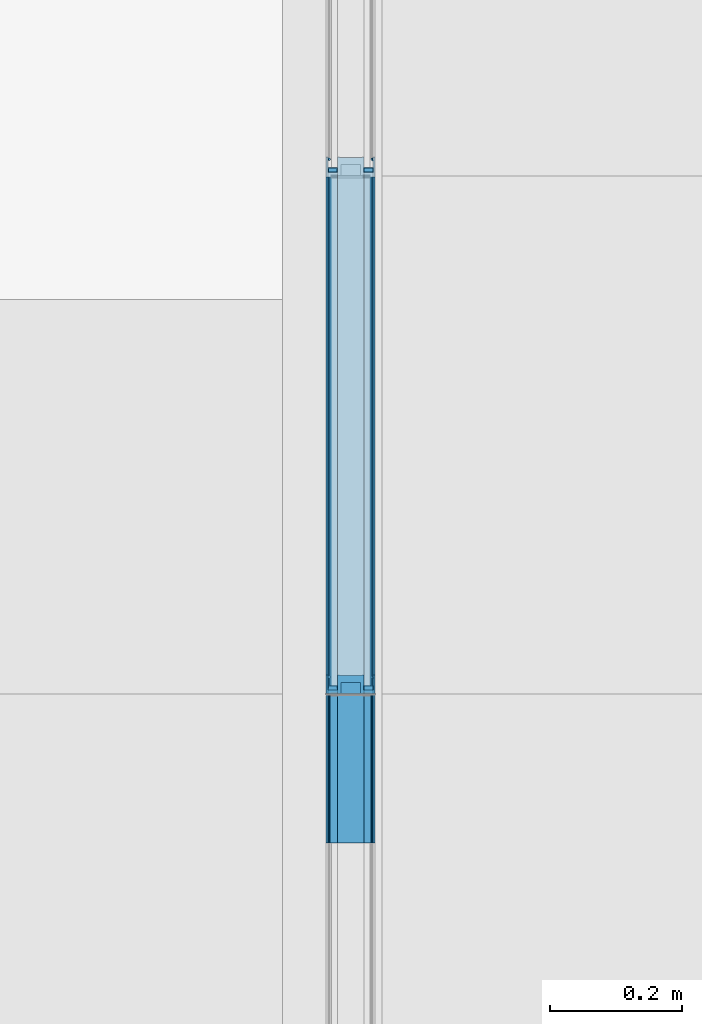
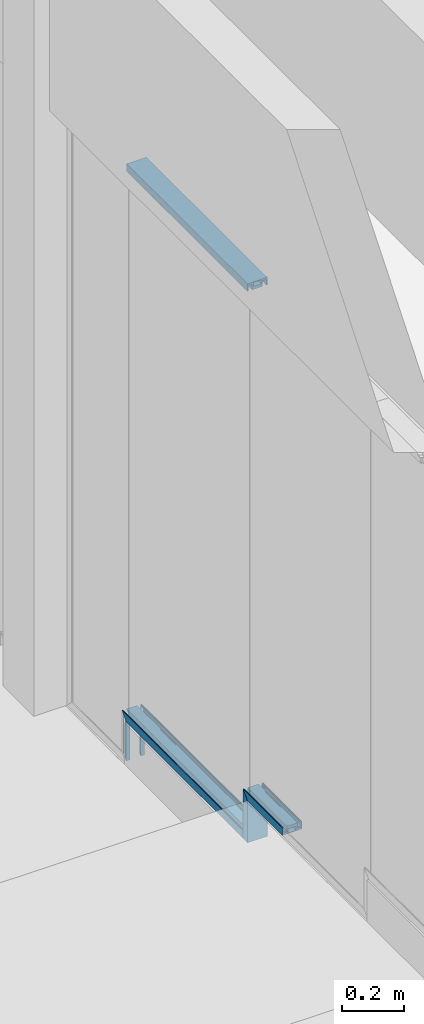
# One storey, part 42 of 65: 8 building element parts, 6 elements without a shape of their own.
"""IFC2X3 building model written with IfcOpenShell, lengths in millimetres."""

import ifcopenshell
import ifcopenshell.guid

model = None  # the IFC model being written
_history = None  # IfcOwnerHistory: only IFC2X3 demands one
_inside = {}  # id of a spatial element -> (the spatial element, [elements in it])
_under = {}  # id of a project, library or spatial element -> (it, [spatial elements below it])
_declared = {}  # id of a project -> (the project, [libraries it declares])
_typed = {}  # id of a type object -> (the type object, [elements of that type])
_made_of = {}  # id of a material, layer set ... -> (it, [elements and type objects made of it])


def new_model(schema):
    """Start an empty IFC model of exactly this schema.

    Asked for "IFC4X3", IfcOpenShell would pick the latest addendum, in which some entities
    have other attributes; the version numbers below select the first issue.
    IFC2X3 requires an IfcOwnerHistory on every rooted entity: one is made here for all.
    """
    global model, _history
    if schema == "IFC4X3":
        model = ifcopenshell.file(schema_version=(4, 3, 0, 0))
    else:
        model = ifcopenshell.file(schema=schema)
    _inside.clear()
    _under.clear()
    _declared.clear()
    _typed.clear()
    _made_of.clear()
    _history = None
    if model.schema == "IFC2X3":
        org = make("IfcOrganization", Name="unknown")
        user = make(
            "IfcPersonAndOrganization",
            ThePerson=make("IfcPerson", FamilyName="unknown"),
            TheOrganization=org,
        )
        app = make(
            "IfcApplication",
            ApplicationDeveloper=org,
            Version="unknown",
            ApplicationFullName="unknown",
            ApplicationIdentifier="unknown",
        )
        _history = make(
            "IfcOwnerHistory",
            OwningUser=user,
            OwningApplication=app,
            ChangeAction="ADDED",
            CreationDate=0,
        )
    return model


def make(cls, **values):
    """One entity of the class cls with the attributes given. An attribute that is None is left unset."""
    return model.create_entity(
        cls, **{name: value for name, value in values.items() if value is not None}
    )


def entity(cls, *values):
    """Any entity or typed value of the class cls, its attributes in the order of the schema. None: left unset."""
    e = model.create_entity(cls)
    for i, value in enumerate(values):
        if value is not None:
            e[i] = value
    return e


def rooted(cls, **values):
    """An entity with a GlobalId (a new one), such as an element, a storey or a relation."""
    return make(cls, GlobalId=ifcopenshell.guid.new(), OwnerHistory=_history, **values)


def si_unit(unit_type, name, prefix=None):
    """IfcSIUnit, for example si_unit("LENGTHUNIT", "METRE", prefix="MILLI")."""
    return make("IfcSIUnit", UnitType=unit_type, Prefix=prefix, Name=name)


def converted_unit(unit_type, name, factor, base, dimensions=None, offset=None):
    """IfcConversionBasedUnit, such as the inch: factor (a typed value) times the base unit."""
    return make(
        "IfcConversionBasedUnit"
        if offset is None
        else "IfcConversionBasedUnitWithOffset",
        ConversionOffset=offset,
        Dimensions=None
        if dimensions is None
        else entity("IfcDimensionalExponents", *dimensions),
        UnitType=unit_type,
        Name=name,
        ConversionFactor=make(
            "IfcMeasureWithUnit", ValueComponent=factor, UnitComponent=base
        ),
    )


def derived_unit(unit_type, elements):
    """IfcDerivedUnit: a product of units, each with its exponent."""
    return make(
        "IfcDerivedUnit",
        Elements=[
            make("IfcDerivedUnitElement", Unit=unit, Exponent=power)
            for unit, power in elements
        ],
        UnitType=unit_type,
    )


def money_unit(currency):
    """IfcMonetaryUnit."""
    return make("IfcMonetaryUnit", Currency=currency)


def assignment(units):
    """IfcUnitAssignment: the units of a project."""
    return None if units is None else make("IfcUnitAssignment", Units=units)


def point(xyz):
    """IfcCartesianPoint."""
    return None if xyz is None else make("IfcCartesianPoint", Coordinates=xyz)


def direction(xyz):
    """IfcDirection."""
    return None if xyz is None else make("IfcDirection", DirectionRatios=xyz)


def frame(location, z_axis=None, x_axis=None):
    """IfcAxis2Placement3D, a coordinate frame: its origin and axes. An axis left out is left unset."""
    return make(
        "IfcAxis2Placement3D",
        Location=point(location),
        Axis=direction(z_axis),
        RefDirection=direction(x_axis),
    )


def origin_with_axes():
    """The frame at (0, 0, 0) with the z axis (0, 0, 1) and the x axis (1, 0, 0) written out."""
    return frame((0.0, 0.0, 0.0), z_axis=(0.0, 0.0, 1.0), x_axis=(1.0, 0.0, 0.0))


def place(relative_to, where):
    """IfcLocalPlacement: puts the frame where relative to a parent placement (None: the world)."""
    return make(
        "IfcLocalPlacement", PlacementRelTo=relative_to, RelativePlacement=where
    )


def context(
    kind, dimensions, precision=None, world=None, true_north=None, identifier=None
):
    """IfcGeometricRepresentationContext, for example the 3D "Model" context."""
    return make(
        "IfcGeometricRepresentationContext",
        ContextIdentifier=identifier,
        ContextType=kind,
        CoordinateSpaceDimension=dimensions,
        Precision=precision,
        WorldCoordinateSystem=world,
        TrueNorth=true_north,
    )


def subcontext(parent, identifier, kind, view, scale=None):
    """IfcGeometricRepresentationSubContext, for example "Body" below "Model"."""
    return make(
        "IfcGeometricRepresentationSubContext",
        ContextIdentifier=identifier,
        ContextType=kind,
        ParentContext=parent,
        TargetScale=scale,
        TargetView=view,
    )


def project(units=None, contexts=None):
    """IfcProject with its units and contexts."""
    return rooted(
        "IfcProject",
        Name="project",
        RepresentationContexts=contexts,
        UnitsInContext=assignment(units),
    )


def spatial(cls, under=None, at=None, **own):
    """A site, building, storey or space (cls), placed at a placement, below another one or the project."""
    s = rooted(cls, ObjectPlacement=at, **own)
    if under is not None:
        _under.setdefault(under.id(), (under, []))[1].append(s)
    return s


def faces_of(points, faces, orient=None, outer=None):
    """IfcFace entities. A face is a list of loops; a loop is a list of indices into points, from 0.

    orient and outer hold one flag for each loop. By default every Orientation is true, the
    first loop of a face is its IfcFaceOuterBound and the others are IfcFaceBound.
    """
    made = []
    for i, loops in enumerate(faces):
        bounds = []
        for j, loop in enumerate(loops):
            is_outer = j == 0 if outer is None else outer[i][j]
            bounds.append(
                make(
                    "IfcFaceOuterBound" if is_outer else "IfcFaceBound",
                    Bound=make("IfcPolyLoop", Polygon=[points[k] for k in loop]),
                    Orientation=True if orient is None else orient[i][j],
                )
            )
        made.append(make("IfcFace", Bounds=bounds))
    return made


def faceted_brep(points, faces, orient=None, outer=None, voids=None):
    """IfcFacetedBrep: a solid bounded by flat faces; with voids (closed shells), ...WithVoids."""
    shared = [point(p) for p in points]
    hull = make("IfcClosedShell", CfsFaces=faces_of(shared, faces, orient, outer))
    if voids is None:
        return make("IfcFacetedBrep", Outer=hull)
    return make(
        "IfcFacetedBrepWithVoids",
        Outer=hull,
        Voids=[
            make(cls, CfsFaces=faces_of(shared, fs, o, b)) for cls, fs, o, b in voids
        ],
    )


def shape(context_of_items, identifier, shape_type, items):
    """IfcShapeRepresentation: the items that make up one representation, for example the "Body"."""
    return make(
        "IfcShapeRepresentation",
        ContextOfItems=context_of_items,
        RepresentationIdentifier=identifier,
        RepresentationType=shape_type,
        Items=items,
    )


def material(Name=None, Category=None):
    """IfcMaterial."""
    return make("IfcMaterial", Name=Name, Category=Category)


def made_of(thing, what):
    """Note that an element or type object is made of a material, layer set ...; save() writes the relation."""
    if what is not None:
        _made_of.setdefault(what.id(), (what, []))[1].append(thing)
    return thing


def type_object(cls, material=None, **own):
    """A type object (cls), such as IfcWallType, which elements share."""
    return made_of(rooted(cls, **own), material)


def element(
    cls,
    number,
    at=None,
    inside=None,
    cuts=None,
    type_object=None,
    material=None,
    context=None,
    identifier="Body",
    shape_type=None,
    held_by="IfcProductDefinitionShape",
    body=None,
    shapes=None,
    **own,
):
    """One element of the class cls, such as IfcWall. Its Tag is "e" and its number.

    at: its placement. inside: the storey or other place that contains it. cuts: it is an
    opening in that element (IfcRelVoidsElement). A single representation is given by context,
    identifier, shape_type and body (its items); several are given by shapes. held_by: the class
    of the entity that holds the representations. save() writes the other relations.
    """
    e = rooted(cls, Tag="e%d" % number, ObjectPlacement=at, **own)
    if body is not None:
        shapes = [shape(context, identifier, shape_type, body)]
    if shapes is not None:
        e.Representation = make(held_by, Representations=shapes)
    if inside is not None:
        _inside.setdefault(inside.id(), (inside, []))[1].append(e)
    if cuts is not None:
        rooted(
            "IfcRelVoidsElement", RelatingBuildingElement=cuts, RelatedOpeningElement=e
        )
    if type_object is not None:
        _typed.setdefault(type_object.id(), (type_object, []))[1].append(e)
    return made_of(e, material)


def aggregate(whole, parts):
    """IfcRelAggregates: a whole, such as a stair, and the parts it consists of."""
    return rooted("IfcRelAggregates", RelatingObject=whole, RelatedObjects=parts)


def save(model, path):
    """Write the relations noted so far, then the file.

    IfcRelAggregates (storeys below a building ...), IfcRelContainedInSpatialStructure (elements
    in a storey), IfcRelDefinesByType, IfcRelAssociatesMaterial and IfcRelDeclares: one each for
    every whole, place, type object, material and project.
    """
    for whole, parts in _under.values():
        aggregate(whole, parts)
    for where, things in _inside.values():
        rooted(
            "IfcRelContainedInSpatialStructure",
            RelatedElements=things,
            RelatingStructure=where,
        )
    for kind, things in _typed.values():
        rooted("IfcRelDefinesByType", RelatedObjects=things, RelatingType=kind)
    for what, things in _made_of.values():
        rooted("IfcRelAssociatesMaterial", RelatedObjects=things, RelatingMaterial=what)
    for by, libraries in _declared.values():
        rooted("IfcRelDeclares", RelatingContext=by, RelatedDefinitions=libraries)
    model.write(path)


model = new_model("IFC2X3")

# Units and contexts
model_context = context("Model", 3, precision=0.01, world=origin_with_axes(), true_north=direction((0.0, 1.0)))
body_context = subcontext(model_context, "Body", "Model", "MODEL_VIEW")
ifc_project = project(units=[si_unit("LENGTHUNIT", "METRE", prefix="MILLI"), si_unit("AREAUNIT", "SQUARE_METRE"), si_unit("VOLUMEUNIT", "CUBIC_METRE"), converted_unit("PLANEANGLEUNIT", "DEGREE", entity("IfcPlaneAngleMeasure", 0.0174532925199), si_unit("PLANEANGLEUNIT", "RADIAN"), dimensions=[0, 0, 0, 0, 0, 0, 0]), si_unit("SOLIDANGLEUNIT", "STERADIAN"), money_unit("EUR"), converted_unit("TIMEUNIT", "Year", entity("IfcTimeMeasure", 31556926.0), si_unit("TIMEUNIT", "SECOND"), dimensions=[0, 0, 1, 0, 0, 0, 0]), si_unit("MASSUNIT", "GRAM", prefix="KILO"), si_unit("THERMODYNAMICTEMPERATUREUNIT", "DEGREE_CELSIUS"), si_unit("LUMINOUSINTENSITYUNIT", "LUMEN"), si_unit("ENERGYUNIT", "JOULE", prefix="MEGA"), derived_unit("THERMALCONDUCTANCEUNIT", [(si_unit("POWERUNIT", "WATT"), 1), (si_unit("LENGTHUNIT", "METRE"), -1), (si_unit("THERMODYNAMICTEMPERATUREUNIT", "KELVIN"), -1)]), derived_unit("SPECIFICHEATCAPACITYUNIT", [(si_unit("ENERGYUNIT", "JOULE"), 1), (si_unit("MASSUNIT", "GRAM", prefix="KILO"), -1), (si_unit("THERMODYNAMICTEMPERATUREUNIT", "KELVIN"), -1)]), derived_unit("MASSDENSITYUNIT", [(si_unit("MASSUNIT", "GRAM", prefix="KILO"), 1), (si_unit("VOLUMEUNIT", "CUBIC_METRE"), -1)])], contexts=[model_context])

# Site, building, storey
site_placement = place(None, origin_with_axes())
site = spatial("IfcSite", under=ifc_project, at=site_placement, Name="Puškini 31, Narva", CompositionType="ELEMENT")
building_placement = place(site_placement, origin_with_axes())
building = spatial("IfcBuilding", under=site, at=building_placement, Name="Narva Riigigümnaasium", CompositionType="ELEMENT")
storey_placement = place(building_placement, frame((0.0, 0.0, -1320.0), z_axis=(0.0, 0.0, 1.0), x_axis=(1.0, 0.0, 0.0)))
storey = spatial("IfcBuildingStorey", under=building, at=storey_placement, Name="1.korrus -1.32", CompositionType="ELEMENT", Elevation=-1320.0)

# Curtain wall, members, building element parts
curtain_wall_type = type_object("IfcCurtainWallType", Name="Curtain Wall Type", PredefinedType="NOTDEFINED")
curtain_wall_placement = place(storey_placement, frame((30362.9999948, 159591.499992, 330.0), z_axis=(0.0, 0.0, 1.0), x_axis=(1.0, 0.0, 0.0)))
curtain_wall = element("IfcCurtainWall", 1, at=curtain_wall_placement, inside=storey, type_object=curtain_wall_type, Name="G-SKLF-03")
member_type = type_object("IfcMemberType", Name="30 x 37", PredefinedType="MULLION")
member_1_placement = place(curtain_wall_placement, frame((0.0, 3523.5, 2369.99992686), z_axis=(0.0, -1.0, -2.12102340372e-08), x_axis=(0.0, 2.12102340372e-08, -1.0)))
member_1 = element("IfcMember", 2, at=member_1_placement, type_object=member_type, Name="G-SKLF-36-raam", ObjectType="MULLION")
ifc_material_1 = material(Name="Teras RAL7012")
building_element_part_1_placement = place(member_1_placement, origin_with_axes())
building_element_part_1 = element("IfcBuildingElementPart", 3, at=building_element_part_1_placement, material=ifc_material_1, Name="Teras RAL7012", context=body_context, shape_type="Brep", body=[
    faceted_brep([(0.0, -17.0000000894, -4.74490379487e-07), (29.5999996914, -17.0000000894, -4.74490379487e-07), (29.5999996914, -17.0000000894, 781.799979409), (0.0, -17.0000000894, 781.799979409), (0.0, 17.0000000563, -4.74490379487e-07), (29.5999996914, 17.0000000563, -4.74490379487e-07), (1.9999999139, 15.0000001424, -4.74490379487e-07), (1.9999999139, -15.0000001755, -4.74490379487e-07), (18.7999996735, -15.0000001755, -4.74490379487e-07), (18.7999996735, 15.0000001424, -4.74490379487e-07), (29.5999996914, 17.0000000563, 781.799979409), (0.0, 17.0000000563, 781.799979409), (1.9999999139, 15.0000001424, 781.799979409), (18.7999996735, 15.0000001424, 781.799979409), (18.7999996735, -15.0000001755, 781.799979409), (1.9999999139, -15.0000001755, 781.799979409)], [[[0, 1, 2, 3]], [[0, 4, 5, 1], [6, 7, 8, 9]], [[1, 5, 10, 2]], [[3, 2, 10, 11], [12, 13, 14, 15]], [[4, 0, 3, 11]], [[5, 4, 11, 10]], [[7, 6, 12, 15]], [[8, 7, 15, 14]], [[9, 8, 14, 13]], [[6, 9, 13, 12]]]),
    faceted_brep([(0.0, 17.0, -4.74490379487e-07), (29.5999996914, 17.0000000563, -4.74490379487e-07), (29.5999996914, 17.0000000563, 781.799979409), (0.0, 17.0, 781.799979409), (0.0, 37.0, -4.74490379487e-07), (30.0000193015, 37.0, -4.74490379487e-07), (30.0000193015, 34.0161444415, -4.74490379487e-07), (28.5126239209, 34.0161444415, -4.74490379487e-07), (24.987414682, 34.0161444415, -4.74490379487e-07), (13.8499999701, 34.0161444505, -4.74490379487e-07), (7.49999999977, 34.0161444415, -4.74490379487e-07), (7.49999999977, 20.0, -4.74490379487e-07), (13.8499999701, 20.000000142, -4.74490379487e-07), (30.0000193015, 20.0, -4.74490379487e-07), (30.0000193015, 17.0, -4.74490379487e-07), (30.0000193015, 17.0, 781.799979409), (30.0000193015, 20.0, 781.799979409), (13.8499999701, 20.000000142, 781.799979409), (7.49999999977, 20.0, 781.799979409), (7.49999999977, 34.0161444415, 781.799979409), (13.8499999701, 34.0161444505, 781.799979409), (24.987414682, 34.0161444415, 781.799979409), (28.5126239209, 34.0161444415, 781.799979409), (30.0000193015, 34.0161444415, 781.799979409), (30.0000193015, 37.0, 781.799979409), (0.0, 37.0, 781.799979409)], [[[0, 1, 2, 3]], [[0, 4, 5, 6, 7, 8, 9, 10, 11, 12, 13, 14, 1]], [[1, 14, 15, 2]], [[3, 2, 15, 16, 17, 18, 19, 20, 21, 22, 23, 24, 25]], [[4, 0, 3, 25]], [[5, 4, 25, 24]], [[6, 5, 24, 23]], [[7, 6, 23, 22]], [[8, 7, 22, 21]], [[9, 8, 21, 20]], [[10, 9, 20, 19]], [[11, 10, 19, 18]], [[12, 11, 18, 17]], [[13, 12, 17, 16]], [[14, 13, 16, 15]]]),
    faceted_brep([(0.0, -17.0, -4.74490379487e-07), (0.0, -37.0, -4.74490379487e-07), (0.0, -37.0, 781.799979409), (0.0, -17.0, 781.799979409), (29.5999996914, -17.0000000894, -4.74490379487e-07), (30.0000193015, -17.0, -4.74490379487e-07), (30.0000193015, -20.0, -4.74490379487e-07), (13.8499999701, -19.9999997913, -4.74490379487e-07), (7.49999999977, -20.0, -4.74490379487e-07), (7.49999999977, -34.0161444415, -4.74490379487e-07), (13.8499999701, -34.0161445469, -4.74490379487e-07), (24.987414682, -34.0161444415, -4.74490379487e-07), (28.5126239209, -34.0161444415, -4.74490379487e-07), (30.0000193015, -34.0161444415, -4.74490379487e-07), (30.0000193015, -37.0, -4.74490379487e-07), (30.0000193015, -37.0, 781.799979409), (30.0000193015, -34.0161444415, 781.799979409), (28.5126239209, -34.0161444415, 781.799979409), (24.987414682, -34.0161444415, 781.799979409), (13.8499999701, -34.0161445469, 781.799979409), (7.49999999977, -34.0161444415, 781.799979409), (7.49999999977, -20.0, 781.799979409), (13.8499999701, -19.9999997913, 781.799979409), (30.0000193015, -20.0, 781.799979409), (30.0000193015, -17.0, 781.799979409), (29.5999996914, -17.0000000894, 781.799979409)], [[[0, 1, 2, 3]], [[0, 4, 5, 6, 7, 8, 9, 10, 11, 12, 13, 14, 1]], [[1, 14, 15, 2]], [[3, 2, 15, 16, 17, 18, 19, 20, 21, 22, 23, 24, 25]], [[4, 0, 3, 25]], [[5, 4, 25, 24]], [[6, 5, 24, 23]], [[7, 6, 23, 22]], [[8, 7, 22, 21]], [[9, 8, 21, 20]], [[10, 9, 20, 19]], [[11, 10, 19, 18]], [[12, 11, 18, 17]], [[13, 12, 17, 16]], [[14, 13, 16, 15]]]),
])
aggregate(member_1, [building_element_part_1])
member_2_placement = place(curtain_wall_placement, frame((0.0, 2516.70004228, 329.999997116), z_axis=(0.0, 1.0, -7.85589987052e-08), x_axis=(0.0, 7.85589987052e-08, 1.0)))
member_2 = element("IfcMember", 4, at=member_2_placement, type_object=member_type, Name="G-SKLF-32-raam", ObjectType="MULLION")
ifc_material_2 = material(Name="Klaasvill")
building_element_part_2_placement = place(member_2_placement, origin_with_axes())
building_element_part_2 = element("IfcBuildingElementPart", 5, at=building_element_part_2_placement, material=ifc_material_2, Name="Klaasvill", context=body_context, shape_type="Brep", body=[
    faceted_brep([(7.49999990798, 20.000000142, -1.17838574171e-06), (13.8499999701, 20.000000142, -1.17838574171e-06), (13.8499999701, 20.000000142, 237.649956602), (7.49999990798, 20.000000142, 231.299957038), (7.49999990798, 34.0161444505, -1.17838574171e-06), (13.8499999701, 34.0161444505, -1.17838574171e-06), (13.8499999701, 34.0161444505, 237.649956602), (7.49999990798, 34.0161444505, 231.299957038)], [[[0, 1, 2, 3]], [[0, 4, 5, 1]], [[1, 5, 6, 2]], [[3, 2, 6, 7]], [[4, 0, 3, 7]], [[5, 4, 7, 6]]]),
    faceted_brep([(24.987414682, 34.0161444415, -1.17838574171e-06), (25.004489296, 32.0307503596, -1.17838574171e-06), (25.004489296, 32.0307503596, 248.804445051), (24.987414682, 34.0161444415, 248.787370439), (28.5126239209, 34.0161444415, -1.17838574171e-06), (28.7655837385, 33.0385325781, -1.17838574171e-06), (28.4955493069, 32.0307503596, -1.17838574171e-06), (27.75780152, 31.2930025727, -1.17838574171e-06), (26.7500193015, 31.0229681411, -1.17838574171e-06), (25.742237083, 31.2930025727, -1.17838574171e-06), (25.742237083, 31.2930025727, 249.54219278), (26.7500193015, 31.0229681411, 250.54997492), (27.75780152, 31.2930025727, 251.557757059), (28.4955493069, 32.0307503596, 252.295504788), (28.7655837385, 33.0385325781, 252.565539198), (28.5126239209, 34.0161444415, 252.312579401)], [[[0, 1, 2, 3]], [[0, 4, 5, 6, 7, 8, 9, 1]], [[1, 9, 10, 2]], [[3, 2, 10, 11, 12, 13, 14, 15]], [[4, 0, 3, 15]], [[5, 4, 15, 14]], [[6, 5, 14, 13]], [[7, 6, 13, 12]], [[8, 7, 12, 11]], [[9, 8, 11, 10]]]),
    faceted_brep([(7.49999990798, -19.9999997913, -1.17838574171e-06), (7.49999990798, -34.0161445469, -1.17838574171e-06), (7.49999990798, -34.0161445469, 231.299957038), (7.49999990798, -19.9999997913, 231.299957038), (13.8499999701, -19.9999997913, -1.17838574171e-06), (13.8499999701, -34.0161445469, -1.17838574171e-06), (13.8499999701, -34.0161445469, 237.649956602), (13.8499999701, -19.9999997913, 237.649956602)], [[[0, 1, 2, 3]], [[0, 4, 5, 1]], [[1, 5, 6, 2]], [[3, 2, 6, 7]], [[4, 0, 3, 7]], [[5, 4, 7, 6]]]),
    faceted_brep([(25.004489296, -32.0307503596, -1.17838574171e-06), (24.987414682, -34.0161444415, -1.17838574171e-06), (24.987414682, -34.0161444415, 248.787370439), (25.004489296, -32.0307503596, 248.804445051), (25.742237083, -31.2930025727, -1.17838574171e-06), (26.7500193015, -31.0229681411, -1.17838574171e-06), (27.75780152, -31.2930025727, -1.17838574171e-06), (28.4955493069, -32.0307503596, -1.17838574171e-06), (28.7655837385, -33.0385325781, -1.17838574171e-06), (28.5126239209, -34.0161444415, -1.17838574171e-06), (28.5126239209, -34.0161444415, 252.312579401), (28.7655837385, -33.0385325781, 252.565539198), (28.4955493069, -32.0307503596, 252.295504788), (27.75780152, -31.2930025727, 251.557757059), (26.7500193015, -31.0229681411, 250.54997492), (25.742237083, -31.2930025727, 249.54219278)], [[[0, 1, 2, 3]], [[0, 4, 5, 6, 7, 8, 9, 1]], [[1, 9, 10, 2]], [[3, 2, 10, 11, 12, 13, 14, 15]], [[4, 0, 3, 15]], [[5, 4, 15, 14]], [[6, 5, 14, 13]], [[7, 6, 13, 12]], [[8, 7, 12, 11]], [[9, 8, 11, 10]]]),
])
building_element_part_3_placement = place(member_2_placement, origin_with_axes())
building_element_part_3 = element("IfcBuildingElementPart", 6, at=building_element_part_3_placement, material=ifc_material_1, Name="Teras RAL7012", context=body_context, shape_type="Brep", body=[
    faceted_brep([(0.0, -17.0000000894, -1.17838574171e-06), (29.5999996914, -17.0000000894, -1.17838574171e-06), (29.5999996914, -17.0000000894, 253.399955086), (0.0, -17.0000000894, 223.79995772), (0.0, 17.0000000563, -1.17838574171e-06), (29.5999996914, 17.0000000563, -1.17838574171e-06), (1.9999999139, 15.0000001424, -1.17838574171e-06), (1.9999999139, -15.0000001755, -1.17838574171e-06), (18.7999996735, -15.0000001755, -1.17838574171e-06), (18.7999996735, 15.0000001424, -1.17838574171e-06), (29.5999996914, 17.0000000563, 253.399955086), (0.0, 17.0000000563, 223.79995772), (1.9999999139, 15.0000001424, 225.799957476), (18.7999996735, 15.0000001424, 242.599955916), (18.7999996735, -15.0000001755, 242.599955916), (1.9999999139, -15.0000001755, 225.799957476)], [[[0, 1, 2, 3]], [[0, 4, 5, 1], [6, 7, 8, 9]], [[1, 5, 10, 2]], [[3, 2, 10, 11], [12, 13, 14, 15]], [[4, 0, 3, 11]], [[5, 4, 11, 10]], [[7, 6, 12, 15]], [[8, 7, 15, 14]], [[9, 8, 14, 13]], [[6, 9, 13, 12]]]),
    faceted_brep([(0.0, 17.0, -1.17838575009e-06), (0.0, 17.0, 223.79995772), (0.0, 37.0, 223.79995772), (0.0, 37.0, -1.17838575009e-06), (29.5999996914, 17.0000000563, -1.17838575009e-06), (29.5999996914, 17.0000000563, 253.399955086), (30.0000193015, 17.0, 253.799974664), (30.0000193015, 20.0, 253.799974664), (13.8499999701, 20.000000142, 237.649956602), (7.49999999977, 20.0, 231.29995713), (7.49999999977, 34.0161444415, 231.29995713), (13.8499999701, 34.0161444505, 237.649956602), (24.987414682, 34.0161444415, 248.787370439), (28.5126239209, 34.0161444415, 252.312579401), (30.0000193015, 34.0161444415, 253.799974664), (30.0000193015, 37.0, 253.799974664), (30.0000193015, 37.0, -1.17838575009e-06), (7.49999999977, 20.0, -1.17838575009e-06), (13.8499999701, 20.000000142, -1.17838575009e-06), (30.0000193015, 20.0, -1.17838575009e-06), (30.0000193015, 17.0, -1.17838575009e-06), (30.0000193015, 34.0161444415, -1.17838575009e-06), (28.5126239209, 34.0161444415, -1.17838575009e-06), (24.987414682, 34.0161444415, -1.17838575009e-06), (13.8499999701, 34.0161444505, -1.17838575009e-06), (7.49999999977, 34.0161444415, -1.17838575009e-06)], [[[0, 1, 2, 3]], [[1, 0, 4, 5]], [[2, 1, 5, 6, 7, 8, 9, 10, 11, 12, 13, 14, 15]], [[3, 2, 15, 16]], [[17, 18, 19, 20, 4, 0, 3, 16, 21, 22, 23, 24, 25]], [[4, 20, 6, 5]], [[20, 19, 7, 6]], [[19, 18, 8, 7]], [[18, 17, 9, 8]], [[17, 25, 10, 9]], [[10, 25, 24, 11]], [[24, 23, 12, 11]], [[23, 22, 13, 12]], [[22, 21, 14, 13]], [[21, 16, 15, 14]]]),
    faceted_brep([(0.0, -37.0, -1.17838575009e-06), (0.0, -37.0, 223.79995772), (0.0, -17.0, 223.79995772), (0.0, -17.0, -1.17838575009e-06), (30.0000193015, -37.0, -1.17838575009e-06), (30.0000193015, -37.0, 253.799974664), (30.0000193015, -34.0161444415, 253.799974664), (28.5126239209, -34.0161444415, 252.312579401), (24.987414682, -34.0161444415, 248.787370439), (13.8499999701, -34.0161445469, 237.649956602), (7.49999999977, -34.0161444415, 231.29995713), (7.49999999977, -20.0, 231.29995713), (13.8499999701, -19.9999997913, 237.649956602), (30.0000193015, -20.0, 253.799974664), (30.0000193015, -17.0, 253.799974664), (29.5999996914, -17.0000000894, 253.399955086), (29.5999996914, -17.0000000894, -1.17838575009e-06), (7.49999999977, -34.0161444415, -1.17838575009e-06), (13.8499999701, -34.0161445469, -1.17838575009e-06), (24.987414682, -34.0161444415, -1.17838575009e-06), (28.5126239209, -34.0161444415, -1.17838575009e-06), (30.0000193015, -34.0161444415, -1.17838575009e-06), (30.0000193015, -17.0, -1.17838575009e-06), (30.0000193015, -20.0, -1.17838575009e-06), (13.8499999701, -19.9999997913, -1.17838575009e-06), (7.49999999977, -20.0, -1.17838575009e-06)], [[[0, 1, 2, 3]], [[1, 0, 4, 5]], [[2, 1, 5, 6, 7, 8, 9, 10, 11, 12, 13, 14, 15]], [[3, 2, 15, 16]], [[17, 18, 19, 20, 21, 4, 0, 3, 16, 22, 23, 24, 25]], [[4, 21, 6, 5]], [[21, 20, 7, 6]], [[20, 19, 8, 7]], [[18, 9, 8, 19]], [[18, 17, 10, 9]], [[17, 25, 11, 10]], [[11, 25, 24, 12]], [[24, 23, 13, 12]], [[23, 22, 14, 13]], [[16, 15, 14, 22]]]),
])
aggregate(member_2, [building_element_part_2, building_element_part_3])
member_3_placement = place(curtain_wall_placement, frame((0.0, 2741.70002059, 165.000007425), z_axis=(0.0, 1.0, 0.0), x_axis=(0.0, 0.0, 1.0)))
member_3 = element("IfcMember", 7, at=member_3_placement, type_object=member_type, Name="G-SKLF-39-raam", ObjectType="MULLION")
building_element_part_4_placement = place(member_3_placement, origin_with_axes())
building_element_part_4 = element("IfcBuildingElementPart", 8, at=building_element_part_4_placement, material=ifc_material_2, Name="Klaasvill", context=body_context, shape_type="Brep", body=[
    faceted_brep([(7.49999990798, 20.000000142, 0.0), (13.8499999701, 20.000000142, 0.0), (13.8499999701, 20.000000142, 795.649979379), (7.49999990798, 20.000000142, 789.299979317), (7.49999990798, 34.0161444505, 0.0), (13.8499999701, 34.0161444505, 0.0), (13.8499999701, 34.0161444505, 795.649979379), (7.49999990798, 34.0161444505, 789.299979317)], [[[0, 1, 2, 3]], [[0, 4, 5, 1]], [[1, 5, 6, 2]], [[3, 2, 6, 7]], [[4, 0, 3, 7]], [[5, 4, 7, 6]]]),
    faceted_brep([(24.987414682, 34.0161444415, 0.0), (25.004489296, 32.0307503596, 0.0), (25.004489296, 32.0307503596, 806.804468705), (24.987414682, 34.0161444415, 806.787394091), (28.5126239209, 34.0161444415, 0.0), (28.7655837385, 33.0385325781, 0.0), (28.4955493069, 32.0307503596, 0.0), (27.75780152, 31.2930025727, 0.0), (26.7500193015, 31.0229681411, 0.0), (25.742237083, 31.2930025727, 0.0), (25.742237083, 31.2930025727, 807.542216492), (26.7500193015, 31.0229681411, 808.549998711), (27.75780152, 31.2930025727, 809.557780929), (28.4955493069, 32.0307503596, 810.295528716), (28.7655837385, 33.0385325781, 810.565563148), (28.5126239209, 34.0161444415, 810.31260333)], [[[0, 1, 2, 3]], [[0, 4, 5, 6, 7, 8, 9, 1]], [[1, 9, 10, 2]], [[3, 2, 10, 11, 12, 13, 14, 15]], [[4, 0, 3, 15]], [[5, 4, 15, 14]], [[6, 5, 14, 13]], [[7, 6, 13, 12]], [[8, 7, 12, 11]], [[9, 8, 11, 10]]]),
    faceted_brep([(7.49999990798, -19.9999997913, 0.0), (7.49999990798, -34.0161445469, 0.0), (7.49999990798, -34.0161445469, 789.299979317), (7.49999990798, -19.9999997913, 789.299979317), (13.8499999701, -19.9999997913, 0.0), (13.8499999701, -34.0161445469, 0.0), (13.8499999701, -34.0161445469, 795.649979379), (13.8499999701, -19.9999997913, 795.649979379)], [[[0, 1, 2, 3]], [[0, 4, 5, 1]], [[1, 5, 6, 2]], [[3, 2, 6, 7]], [[4, 0, 3, 7]], [[5, 4, 7, 6]]]),
    faceted_brep([(25.004489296, -32.0307503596, 0.0), (24.987414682, -34.0161444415, 0.0), (24.987414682, -34.0161444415, 806.787394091), (25.004489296, -32.0307503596, 806.804468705), (25.742237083, -31.2930025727, 0.0), (26.7500193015, -31.0229681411, 0.0), (27.75780152, -31.2930025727, 0.0), (28.4955493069, -32.0307503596, 0.0), (28.7655837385, -33.0385325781, 0.0), (28.5126239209, -34.0161444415, 0.0), (28.5126239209, -34.0161444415, 810.31260333), (28.7655837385, -33.0385325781, 810.565563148), (28.4955493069, -32.0307503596, 810.295528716), (27.75780152, -31.2930025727, 809.557780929), (26.7500193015, -31.0229681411, 808.549998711), (25.742237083, -31.2930025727, 807.542216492)], [[[0, 1, 2, 3]], [[0, 4, 5, 6, 7, 8, 9, 1]], [[1, 9, 10, 2]], [[3, 2, 10, 11, 12, 13, 14, 15]], [[4, 0, 3, 15]], [[5, 4, 15, 14]], [[6, 5, 14, 13]], [[7, 6, 13, 12]], [[8, 7, 12, 11]], [[9, 8, 11, 10]]]),
])
building_element_part_5_placement = place(member_3_placement, origin_with_axes())
building_element_part_5 = element("IfcBuildingElementPart", 9, at=building_element_part_5_placement, material=ifc_material_1, Name="Teras RAL7012", context=body_context, shape_type="Brep", body=[
    faceted_brep([(0.0, -17.0000000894, 0.0), (29.5999996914, -17.0000000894, 0.0), (29.5999996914, -17.0000000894, 811.399979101), (0.0, -17.0000000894, 781.799979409), (0.0, 17.0000000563, 0.0), (29.5999996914, 17.0000000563, 0.0), (1.9999999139, 15.0000001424, 0.0), (1.9999999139, -15.0000001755, 0.0), (18.7999996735, -15.0000001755, 0.0), (18.7999996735, 15.0000001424, 0.0), (29.5999996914, 17.0000000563, 811.399979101), (0.0, 17.0000000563, 781.799979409), (1.9999999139, 15.0000001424, 783.799979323), (18.7999996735, 15.0000001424, 800.599979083), (18.7999996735, -15.0000001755, 800.599979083), (1.9999999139, -15.0000001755, 783.799979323)], [[[0, 1, 2, 3]], [[0, 4, 5, 1], [6, 7, 8, 9]], [[1, 5, 10, 2]], [[3, 2, 10, 11], [12, 13, 14, 15]], [[4, 0, 3, 11]], [[5, 4, 11, 10]], [[7, 6, 12, 15]], [[8, 7, 15, 14]], [[9, 8, 14, 13]], [[6, 9, 13, 12]]]),
    faceted_brep([(0.0, 17.0, 0.0), (0.0, 17.0, 781.799979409), (0.0, 37.0, 781.799979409), (0.0, 37.0, 0.0), (29.5999996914, 17.0000000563, 0.0), (29.5999996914, 17.0000000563, 811.399979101), (30.0000193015, 17.0, 811.799998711), (30.0000193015, 20.0, 811.799998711), (13.8499999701, 20.000000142, 795.649979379), (7.49999999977, 20.0, 789.299979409), (7.49999999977, 34.0161444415, 789.299979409), (13.8499999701, 34.0161444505, 795.649979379), (24.987414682, 34.0161444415, 806.787394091), (28.5126239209, 34.0161444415, 810.31260333), (30.0000193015, 34.0161444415, 811.799998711), (30.0000193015, 37.0, 811.799998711), (30.0000193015, 37.0, 0.0), (7.49999999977, 20.0, 0.0), (13.8499999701, 20.000000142, 0.0), (30.0000193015, 20.0, 0.0), (30.0000193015, 17.0, 0.0), (30.0000193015, 34.0161444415, 0.0), (28.5126239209, 34.0161444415, 0.0), (24.987414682, 34.0161444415, 0.0), (13.8499999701, 34.0161444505, 0.0), (7.49999999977, 34.0161444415, 0.0)], [[[0, 1, 2, 3]], [[1, 0, 4, 5]], [[2, 1, 5, 6, 7, 8, 9, 10, 11, 12, 13, 14, 15]], [[3, 2, 15, 16]], [[17, 18, 19, 20, 4, 0, 3, 16, 21, 22, 23, 24, 25]], [[4, 20, 6, 5]], [[20, 19, 7, 6]], [[19, 18, 8, 7]], [[18, 17, 9, 8]], [[17, 25, 10, 9]], [[10, 25, 24, 11]], [[24, 23, 12, 11]], [[23, 22, 13, 12]], [[22, 21, 14, 13]], [[21, 16, 15, 14]]]),
    faceted_brep([(0.0, -37.0, 0.0), (0.0, -37.0, 781.799979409), (0.0, -17.0, 781.799979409), (0.0, -17.0, 0.0), (30.0000193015, -37.0, 0.0), (30.0000193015, -37.0, 811.799998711), (30.0000193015, -34.0161444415, 811.799998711), (28.5126239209, -34.0161444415, 810.31260333), (24.987414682, -34.0161444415, 806.787394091), (13.8499999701, -34.0161445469, 795.649979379), (7.49999999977, -34.0161444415, 789.299979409), (7.49999999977, -20.0, 789.299979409), (13.8499999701, -19.9999997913, 795.649979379), (30.0000193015, -20.0, 811.799998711), (30.0000193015, -17.0, 811.799998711), (29.5999996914, -17.0000000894, 811.399979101), (29.5999996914, -17.0000000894, 0.0), (7.49999999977, -34.0161444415, 0.0), (13.8499999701, -34.0161445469, 0.0), (24.987414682, -34.0161444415, 0.0), (28.5126239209, -34.0161444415, 0.0), (30.0000193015, -34.0161444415, 0.0), (30.0000193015, -17.0, 0.0), (30.0000193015, -20.0, 0.0), (13.8499999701, -19.9999997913, 0.0), (7.49999999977, -20.0, 0.0)], [[[0, 1, 2, 3]], [[1, 0, 4, 5]], [[2, 1, 5, 6, 7, 8, 9, 10, 11, 12, 13, 14, 15]], [[3, 2, 15, 16]], [[17, 18, 19, 20, 21, 4, 0, 3, 16, 22, 23, 24, 25]], [[4, 21, 6, 5]], [[21, 20, 7, 6]], [[20, 19, 8, 7]], [[19, 18, 9, 8]], [[18, 17, 10, 9]], [[17, 25, 11, 10]], [[11, 25, 24, 12]], [[24, 23, 13, 12]], [[23, 22, 14, 13]], [[16, 15, 14, 22]]]),
])
aggregate(member_3, [building_element_part_4, building_element_part_5])
member_4_placement = place(curtain_wall_placement, frame((0.0, 3523.5, 0.0), z_axis=(0.0, 0.0, 1.0), x_axis=(0.0, -1.0, 0.0)))
member_4 = element("IfcMember", 10, at=member_4_placement, type_object=member_type, Name="G-SKLF-05-raam", ObjectType="MULLION")
building_element_part_6_placement = place(member_4_placement, origin_with_axes())
building_element_part_6 = element("IfcBuildingElementPart", 11, at=building_element_part_6_placement, material=ifc_material_2, Name="Klaasvill", context=body_context, shape_type="Brep", body=[
    faceted_brep([(-7.49999990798, 20.000000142, 7.49999990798), (-7.49999990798, 20.000000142, 172.500007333), (-13.8499999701, 20.000000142, 178.850007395), (-13.8499999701, 20.000000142, 13.8499999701), (-7.49999990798, 34.0161444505, 7.49999990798), (-7.49999990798, 34.0161444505, 172.500007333), (-13.8499999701, 34.0161444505, 178.850007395), (-13.8499999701, 34.0161444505, 13.8499999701)], [[[0, 1, 2, 3]], [[4, 5, 1, 0]], [[2, 1, 5, 6]], [[3, 2, 6, 7]], [[3, 7, 4, 0]], [[7, 6, 5, 4]]]),
    faceted_brep([(-28.7655837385, 33.0385325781, 28.7655837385), (-28.7655837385, 33.0385325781, 193.765591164), (-24.987414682, 34.0161444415, 189.987422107), (-24.987414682, 34.0161444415, 24.987414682), (-28.4955493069, 32.0307503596, 28.4955493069), (-28.4955493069, 32.0307503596, 193.495556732), (-27.75780152, 31.2930025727, 192.757808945), (-26.7500193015, 31.0229681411, 191.750026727), (-25.742237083, 31.2930025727, 190.742244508), (-25.004489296, 32.0307503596, 190.004496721), (-24.7344548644, 33.0385325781, 189.73446229), (-24.7344548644, 33.0385325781, 24.7344548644), (-25.004489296, 32.0307503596, 25.004489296), (-25.742237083, 31.2930025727, 25.742237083), (-26.7500193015, 31.0229681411, 26.7500193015), (-27.75780152, 31.2930025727, 27.75780152)], [[[0, 1, 2, 3]], [[4, 5, 1, 0]], [[2, 1, 5, 6, 7, 8, 9, 10]], [[3, 2, 10, 11]], [[3, 11, 12, 13, 14, 15, 4, 0]], [[15, 6, 5, 4]], [[14, 7, 6, 15]], [[13, 8, 7, 14]], [[12, 9, 8, 13]], [[11, 10, 9, 12]]]),
    faceted_brep([(-13.8499999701, -34.0161445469, 13.8499999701), (-13.8499999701, -34.0161445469, 178.850007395), (-13.8499999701, -19.9999997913, 178.850007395), (-13.8499999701, -19.9999997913, 13.8499999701), (-7.49999990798, -34.0161445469, 7.49999990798), (-7.49999990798, -34.0161445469, 172.500007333), (-7.49999990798, -19.9999997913, 172.500007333), (-7.49999990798, -19.9999997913, 7.49999990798)], [[[0, 1, 2, 3]], [[4, 5, 1, 0]], [[2, 1, 5, 6]], [[3, 2, 6, 7]], [[3, 7, 4, 0]], [[7, 6, 5, 4]]]),
    faceted_brep([(-25.004489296, -32.0307503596, 25.004489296), (-25.004489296, -32.0307503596, 190.004496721), (-24.987414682, -34.0161444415, 189.987422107), (-24.987414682, -34.0161444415, 24.987414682), (-25.742237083, -31.2930025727, 25.742237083), (-25.742237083, -31.2930025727, 190.742244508), (-26.7500193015, -31.0229681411, 191.750026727), (-27.75780152, -31.2930025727, 192.757808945), (-28.4955493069, -32.0307503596, 193.495556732), (-28.7655837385, -33.0385325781, 193.765591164), (-28.5126239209, -34.0161444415, 193.512631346), (-28.5126239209, -34.0161444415, 28.5126239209), (-28.7655837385, -33.0385325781, 28.7655837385), (-28.4955493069, -32.0307503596, 28.4955493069), (-27.75780152, -31.2930025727, 27.75780152), (-26.7500193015, -31.0229681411, 26.7500193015)], [[[0, 1, 2, 3]], [[4, 5, 1, 0]], [[2, 1, 5, 6, 7, 8, 9, 10]], [[3, 2, 10, 11]], [[3, 11, 12, 13, 14, 15, 4, 0]], [[15, 6, 5, 4]], [[14, 7, 6, 15]], [[13, 8, 7, 14]], [[12, 9, 8, 13]], [[11, 10, 9, 12]]]),
])
aggregate(member_4, [building_element_part_6])
member_5_placement = place(curtain_wall_placement, frame((0.0, 2740.5, 165.0), z_axis=(0.0, 0.0, 1.0), x_axis=(0.0, -1.0, 0.0)))
member_5 = element("IfcMember", 12, at=member_5_placement, type_object=member_type, Name="G-SKLF-86-klaasidevaheline tihend", ObjectType="MULLION")
aggregate(curtain_wall, [member_1, member_2, member_3, member_4, member_5])
building_element_part_7_placement = place(member_5_placement, origin_with_axes())
building_element_part_7 = element("IfcBuildingElementPart", 13, at=building_element_part_7_placement, material=ifc_material_2, Name="Klaasvill", context=body_context, shape_type="Brep", body=[
    faceted_brep([(-13.8499999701, 20.000000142, 0.0), (-7.49999990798, 20.000000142, 0.0), (-7.49999990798, 20.000000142, 172.499978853), (-13.8499999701, 20.000000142, 178.849978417), (-13.8499999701, 34.0161444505, 0.0), (-7.49999990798, 34.0161444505, 0.0), (-7.49999990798, 34.0161444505, 172.499978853), (-13.8499999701, 34.0161444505, 178.849978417)], [[[0, 1, 2, 3]], [[0, 4, 5, 1]], [[1, 5, 6, 2]], [[3, 2, 6, 7]], [[4, 0, 3, 7]], [[5, 4, 7, 6]]]),
    faceted_brep([(-24.987414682, 34.0161444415, 0.0), (-28.7655837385, 33.0385325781, 0.0), (-28.7655837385, 33.0385325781, 193.765561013), (-24.987414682, 34.0161444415, 189.987392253), (-24.7344548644, 33.0385325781, 0.0), (-25.004489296, 32.0307503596, 0.0), (-25.742237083, 31.2930025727, 0.0), (-26.7500193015, 31.0229681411, 0.0), (-27.75780152, 31.2930025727, 0.0), (-28.4955493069, 32.0307503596, 0.0), (-28.4955493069, 32.0307503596, 193.495526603), (-27.75780152, 31.2930025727, 192.757778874), (-26.7500193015, 31.0229681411, 191.749996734), (-25.742237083, 31.2930025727, 190.742214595), (-25.004489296, 32.0307503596, 190.004466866), (-24.7344548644, 33.0385325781, 189.734432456)], [[[0, 1, 2, 3]], [[0, 4, 5, 6, 7, 8, 9, 1]], [[1, 9, 10, 2]], [[3, 2, 10, 11, 12, 13, 14, 15]], [[4, 0, 3, 15]], [[5, 4, 15, 14]], [[6, 5, 14, 13]], [[7, 6, 13, 12]], [[8, 7, 12, 11]], [[9, 8, 11, 10]]]),
    faceted_brep([(-13.8499999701, -19.9999997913, 0.0), (-13.8499999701, -34.0161445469, 0.0), (-13.8499999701, -34.0161445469, 178.849978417), (-13.8499999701, -19.9999997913, 178.849978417), (-7.49999990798, -19.9999997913, 0.0), (-7.49999990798, -34.0161445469, 0.0), (-7.49999990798, -34.0161445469, 172.499978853), (-7.49999990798, -19.9999997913, 172.499978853)], [[[0, 1, 2, 3]], [[0, 4, 5, 1]], [[1, 5, 6, 2]], [[3, 2, 6, 7]], [[4, 0, 3, 7]], [[5, 4, 7, 6]]]),
    faceted_brep([(-24.987414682, -34.0161444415, 0.0), (-25.004489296, -32.0307503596, 0.0), (-25.004489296, -32.0307503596, 190.004466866), (-24.987414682, -34.0161444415, 189.987392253), (-28.5126239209, -34.0161444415, 0.0), (-28.7655837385, -33.0385325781, 0.0), (-28.4955493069, -32.0307503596, 0.0), (-27.75780152, -31.2930025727, 0.0), (-26.7500193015, -31.0229681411, 0.0), (-25.742237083, -31.2930025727, 0.0), (-25.742237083, -31.2930025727, 190.742214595), (-26.7500193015, -31.0229681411, 191.749996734), (-27.75780152, -31.2930025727, 192.757778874), (-28.4955493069, -32.0307503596, 193.495526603), (-28.7655837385, -33.0385325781, 193.765561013), (-28.5126239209, -34.0161444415, 193.512601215)], [[[0, 1, 2, 3]], [[0, 4, 5, 6, 7, 8, 9, 1]], [[1, 9, 10, 2]], [[3, 2, 10, 11, 12, 13, 14, 15]], [[4, 0, 3, 15]], [[5, 4, 15, 14]], [[6, 5, 14, 13]], [[7, 6, 13, 12]], [[8, 7, 12, 11]], [[9, 8, 11, 10]]]),
])
building_element_part_8_placement = place(member_5_placement, origin_with_axes())
building_element_part_8 = element("IfcBuildingElementPart", 14, at=building_element_part_8_placement, material=ifc_material_1, Name="Teras RAL7012", context=body_context, shape_type="Brep", body=[
    faceted_brep([(-29.6000001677, 17.0000000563, 0.0), (-29.6000001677, -17.0000000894, 0.0), (-29.6000001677, -17.0000000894, 194.599977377), (-29.6000001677, 17.0000000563, 194.599977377), (3.28335792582e-07, 17.0000000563, 0.0), (3.28335792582e-07, -17.0000000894, 0.0), (-1.99999958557, -15.0000001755, 0.0), (-1.99999958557, 15.0000001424, 0.0), (-18.8000001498, 15.0000001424, 0.0), (-18.8000001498, -15.0000001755, 0.0), (3.28335792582e-07, -17.0000000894, 164.999979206), (3.28335792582e-07, 17.0000000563, 164.999979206), (-1.99999958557, -15.0000001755, 166.999978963), (-18.8000001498, -15.0000001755, 183.799978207), (-18.8000001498, 15.0000001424, 183.799978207), (-1.99999958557, 15.0000001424, 166.999978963)], [[[0, 1, 2, 3]], [[0, 4, 5, 1], [6, 7, 8, 9]], [[1, 5, 10, 2]], [[3, 2, 10, 11], [12, 13, 14, 15]], [[4, 0, 3, 11]], [[5, 4, 11, 10]], [[7, 6, 12, 15]], [[8, 7, 15, 14]], [[9, 8, 14, 13]], [[6, 9, 13, 12]]]),
    faceted_brep([(-30.0000193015, 17.0, 0.0), (-29.6000001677, 17.0000000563, 0.0), (-29.6000001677, 17.0000000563, 194.599977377), (-30.0000193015, 17.0, 194.999996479), (-30.0000193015, 20.0, 0.0), (-13.8499999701, 20.000000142, 0.0), (-7.49999999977, 20.0, 0.0), (-7.49999999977, 34.0161444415, 0.0), (-13.8499999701, 34.0161444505, 0.0), (-24.987414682, 34.0161444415, 0.0), (-28.5126239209, 34.0161444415, 0.0), (-30.0000193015, 34.0161444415, 0.0), (-30.0000193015, 37.0, 0.0), (0.0, 37.0, 0.0), (0.0, 17.0, 0.0), (0.0, 17.0, 164.999979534), (-30.0000193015, 20.0, 194.999996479), (0.0, 37.0, 164.999979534), (-30.0000193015, 37.0, 194.999996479), (-30.0000193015, 34.0161444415, 194.999996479), (-28.5126239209, 34.0161444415, 193.512601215), (-24.987414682, 34.0161444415, 189.987392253), (-13.8499999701, 34.0161444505, 178.849978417), (-7.49999999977, 34.0161444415, 172.499978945), (-7.49999999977, 20.0, 172.499978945), (-13.8499999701, 20.000000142, 178.849978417)], [[[0, 1, 2, 3]], [[1, 0, 4, 5, 6, 7, 8, 9, 10, 11, 12, 13, 14]], [[1, 14, 15, 2]], [[16, 3, 2, 15, 17, 18, 19, 20, 21, 22, 23, 24, 25]], [[0, 3, 16, 4]], [[4, 16, 25, 5]], [[5, 25, 24, 6]], [[7, 6, 24, 23]], [[8, 7, 23, 22]], [[9, 8, 22, 21]], [[10, 9, 21, 20]], [[19, 11, 10, 20]], [[11, 19, 18, 12]], [[12, 18, 17, 13]], [[15, 14, 13, 17]]]),
    faceted_brep([(-30.0000193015, -34.0161444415, 0.0), (-30.0000193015, -34.0161444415, 194.999996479), (-28.5126239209, -34.0161444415, 193.512601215), (-28.5126239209, -34.0161444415, 0.0), (-30.0000193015, -37.0, 0.0), (-30.0000193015, -37.0, 194.999996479), (0.0, -37.0, 164.999979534), (0.0, -17.0, 164.999979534), (-29.6000001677, -17.0000000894, 194.599977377), (-30.0000193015, -17.0, 194.999996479), (-30.0000193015, -20.0, 194.999996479), (-13.8499999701, -19.9999997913, 178.849978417), (-7.49999999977, -20.0, 172.499978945), (-7.49999999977, -34.0161444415, 172.499978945), (-13.8499999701, -34.0161445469, 178.849978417), (-24.987414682, -34.0161444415, 189.987392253), (-24.987414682, -34.0161444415, 0.0), (-13.8499999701, -34.0161445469, 0.0), (-7.49999999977, -34.0161444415, 0.0), (-7.49999999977, -20.0, 0.0), (-13.8499999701, -19.9999997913, 0.0), (-30.0000193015, -20.0, 0.0), (-30.0000193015, -17.0, 0.0), (-29.6000001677, -17.0000000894, 0.0), (0.0, -17.0, 0.0), (0.0, -37.0, 0.0)], [[[0, 1, 2, 3]], [[0, 4, 5, 1]], [[1, 5, 6, 7, 8, 9, 10, 11, 12, 13, 14, 15, 2]], [[16, 3, 2, 15]], [[4, 0, 3, 16, 17, 18, 19, 20, 21, 22, 23, 24, 25]], [[5, 4, 25, 6]], [[6, 25, 24, 7]], [[23, 8, 7, 24]], [[23, 22, 9, 8]], [[21, 10, 9, 22]], [[10, 21, 20, 11]], [[20, 19, 12, 11]], [[19, 18, 13, 12]], [[17, 14, 13, 18]], [[17, 16, 15, 14]]]),
])
aggregate(member_5, [building_element_part_7, building_element_part_8])

save(model, "model.ifc")
